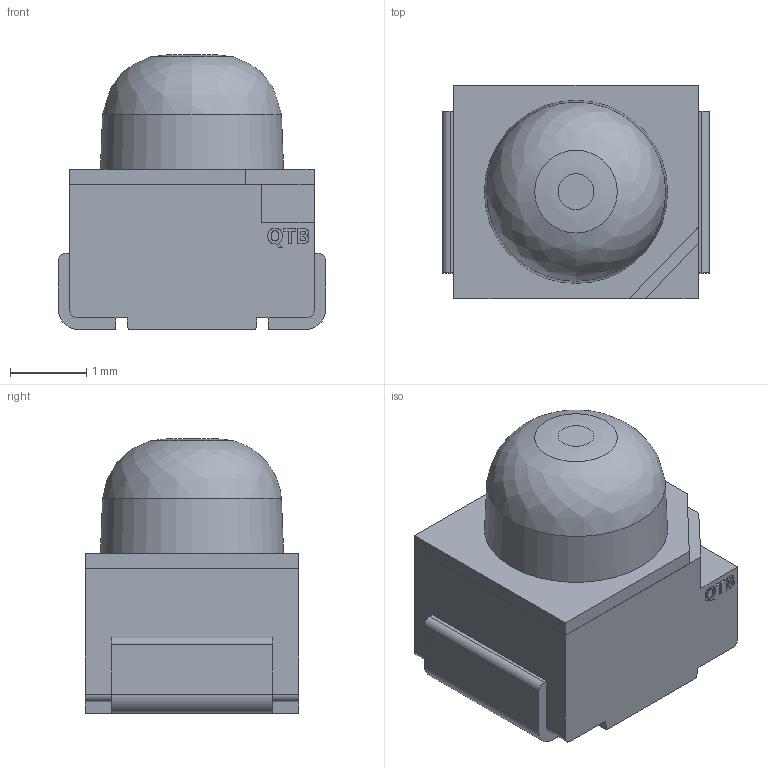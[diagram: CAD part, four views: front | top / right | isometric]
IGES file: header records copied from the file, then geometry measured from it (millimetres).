
Start section: Data from Parasolid IGES Translator 23.1.110, Copyright(c) 2006 Siemens PLM Software. All Rights Reserved.
Global section: file name: 5fab11161c17e90e8914f9c4.iges; native system: By Siemens PLM Incorporated; preprocessor: XPlus GENERIC/IGES 23.1.110; author: Noname; organization: Noname; date: 20201110.221550; units: metre
Bounding box: 3.5 x 2.8 x 3.6 mm (x, y, z)
Surface area: 119.4 mm2 (no closed solid volume)
Topology: 0 solids, 0 shells, 111 faces, 568 edges, 557 vertices
Faces by surface type: extrusion 98, revolution 13
